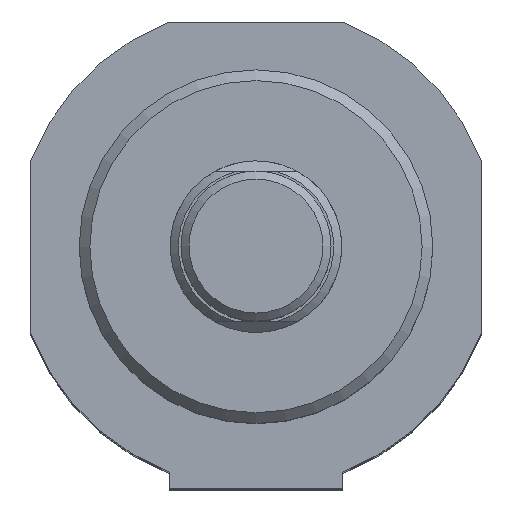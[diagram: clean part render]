
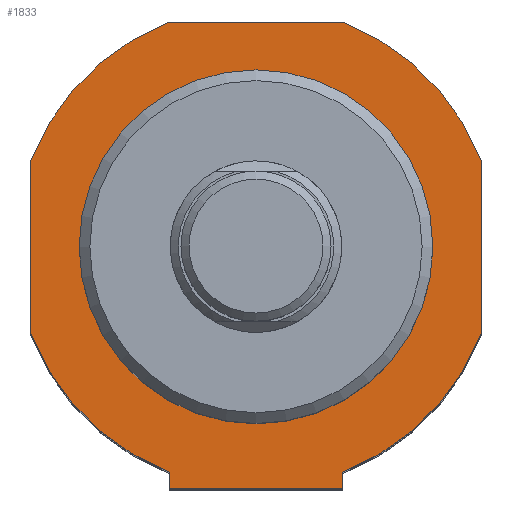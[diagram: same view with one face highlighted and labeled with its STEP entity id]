
A CAD part, top view. The second image highlights one B-rep face of the part: STEP entity #1833.
In plain terms, the highlighted planar face has unit normal (0, 0, 1).
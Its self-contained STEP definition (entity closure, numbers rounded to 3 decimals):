
#898=CARTESIAN_POINT('',(8.078,-22.5,124.));
#899=VERTEX_POINT('',#898);
#900=CARTESIAN_POINT('',(-8.078,-22.5,124.));
#901=VERTEX_POINT('',#900);
#902=CARTESIAN_POINT('',(8.078,-22.5,124.));
#903=DIRECTION('',(-1.0,0.0,0.0));
#904=VECTOR('',#903,16.155);
#905=LINE('',#902,#904);
#906=EDGE_CURVE('',#899,#901,#905,.T.);
#1054=CARTESIAN_POINT('',(-8.078,-21.,124.));
#1055=VERTEX_POINT('',#1054);
#1069=CARTESIAN_POINT('',(-8.078,-21.,124.));
#1070=DIRECTION('',(0.0,-1.0,0.0));
#1071=VECTOR('',#1070,1.5);
#1072=LINE('',#1069,#1071);
#1073=EDGE_CURVE('',#1055,#901,#1072,.T.);
#1085=CARTESIAN_POINT('',(8.078,-21.,124.));
#1086=VERTEX_POINT('',#1085);
#1093=CARTESIAN_POINT('',(8.078,-21.,124.));
#1094=DIRECTION('',(0.0,-1.0,0.0));
#1095=VECTOR('',#1094,1.5);
#1096=LINE('',#1093,#1095);
#1097=EDGE_CURVE('',#1086,#899,#1096,.T.);
#1561=CARTESIAN_POINT('',(16.5,0.,124.));
#1562=VERTEX_POINT('',#1561);
#1563=CARTESIAN_POINT('',(0.,0.,124.));
#1564=DIRECTION('',(0.0,0.0,-1.0));
#1565=DIRECTION('',(-1.0,0.0,0.0));
#1566=AXIS2_PLACEMENT_3D('',#1563,#1564,#1565);
#1567=CIRCLE('',#1566,16.5);
#1568=EDGE_CURVE('',#1562,#1562,#1567,.T.);
#1653=CARTESIAN_POINT('',(-8.078,21.,124.));
#1654=VERTEX_POINT('',#1653);
#1655=CARTESIAN_POINT('',(8.078,21.,124.));
#1656=VERTEX_POINT('',#1655);
#1657=CARTESIAN_POINT('',(-8.078,21.,124.));
#1658=DIRECTION('',(1.0,0.0,0.0));
#1659=VECTOR('',#1658,16.155);
#1660=LINE('',#1657,#1659);
#1661=EDGE_CURVE('',#1654,#1656,#1660,.T.);
#1684=CARTESIAN_POINT('',(21.,8.078,124.));
#1685=VERTEX_POINT('',#1684);
#1686=CARTESIAN_POINT('',(0.,0.,124.0));
#1687=DIRECTION('',(0.,0.,-1.0));
#1688=DIRECTION('',(0.933,0.359,0.));
#1689=AXIS2_PLACEMENT_3D('',#1686,#1687,#1688);
#1690=CIRCLE('',#1689,22.5);
#1691=EDGE_CURVE('',#1656,#1685,#1690,.T.);
#1709=CARTESIAN_POINT('',(21.,-8.078,124.));
#1710=VERTEX_POINT('',#1709);
#1711=CARTESIAN_POINT('',(21.,8.078,124.));
#1712=DIRECTION('',(0.0,-1.0,0.0));
#1713=VECTOR('',#1712,16.155);
#1714=LINE('',#1711,#1713);
#1715=EDGE_CURVE('',#1685,#1710,#1714,.T.);
#1733=CARTESIAN_POINT('',(0.,0.,124.0));
#1734=DIRECTION('',(0.,0.,-1.));
#1735=DIRECTION('',(0.359,-0.933,0.));
#1736=AXIS2_PLACEMENT_3D('',#1733,#1734,#1735);
#1737=CIRCLE('',#1736,22.5);
#1738=EDGE_CURVE('',#1710,#1086,#1737,.T.);
#1751=CARTESIAN_POINT('',(-21.,-8.078,124.));
#1752=VERTEX_POINT('',#1751);
#1753=CARTESIAN_POINT('',(0.,0.,124.0));
#1754=DIRECTION('',(0.,0.,-1.0));
#1755=DIRECTION('',(-0.933,-0.359,0.));
#1756=AXIS2_PLACEMENT_3D('',#1753,#1754,#1755);
#1757=CIRCLE('',#1756,22.5);
#1758=EDGE_CURVE('',#1055,#1752,#1757,.T.);
#1776=CARTESIAN_POINT('',(-21.,8.078,124.));
#1777=VERTEX_POINT('',#1776);
#1778=CARTESIAN_POINT('',(-21.,-8.078,124.));
#1779=DIRECTION('',(0.0,1.0,0.0));
#1780=VECTOR('',#1779,16.155);
#1781=LINE('',#1778,#1780);
#1782=EDGE_CURVE('',#1752,#1777,#1781,.T.);
#1800=CARTESIAN_POINT('',(0.,0.,124.0));
#1801=DIRECTION('',(0.,0.,-1.));
#1802=DIRECTION('',(-0.359,0.933,0.));
#1803=AXIS2_PLACEMENT_3D('',#1800,#1801,#1802);
#1804=CIRCLE('',#1803,22.5);
#1805=EDGE_CURVE('',#1777,#1654,#1804,.T.);
#1813=CARTESIAN_POINT('',(0.,0.0,124.));
#1814=DIRECTION('',(0.0,0.0,1.0));
#1815=DIRECTION('',(1.0,0.0,0.0));
#1816=AXIS2_PLACEMENT_3D('',#1813,#1814,#1815);
#1817=PLANE('',#1816);
#1818=ORIENTED_EDGE('',*,*,#1661,.F.);
#1819=ORIENTED_EDGE('',*,*,#1805,.F.);
#1820=ORIENTED_EDGE('',*,*,#1782,.F.);
#1821=ORIENTED_EDGE('',*,*,#1758,.F.);
#1822=ORIENTED_EDGE('',*,*,#1073,.T.);
#1823=ORIENTED_EDGE('',*,*,#906,.F.);
#1824=ORIENTED_EDGE('',*,*,#1097,.F.);
#1825=ORIENTED_EDGE('',*,*,#1738,.F.);
#1826=ORIENTED_EDGE('',*,*,#1715,.F.);
#1827=ORIENTED_EDGE('',*,*,#1691,.F.);
#1828=EDGE_LOOP('',(#1818,#1819,#1820,#1821,#1822,#1823,#1824,#1825,#1826,#1827));
#1829=FACE_OUTER_BOUND('',#1828,.T.);
#1830=ORIENTED_EDGE('',*,*,#1568,.T.);
#1831=EDGE_LOOP('',(#1830));
#1832=FACE_BOUND('',#1831,.T.);
#1833=ADVANCED_FACE('',(#1829,#1832),#1817,.T.);
